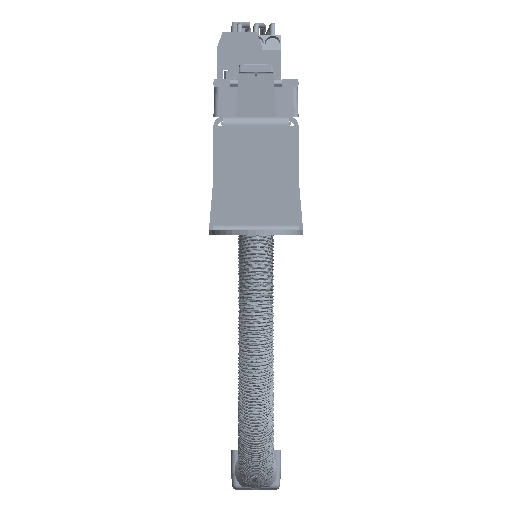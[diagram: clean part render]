
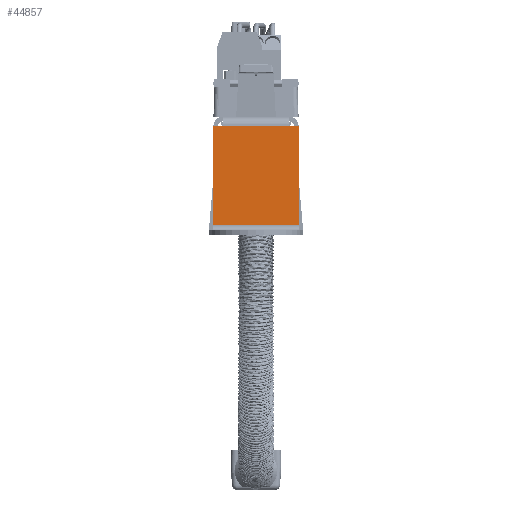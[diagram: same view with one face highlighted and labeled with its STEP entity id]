
A CAD part, left-side view. The second image highlights one B-rep face of the part: STEP entity #44857.
In plain terms, the highlighted planar face has unit normal (-1, 0, 0).
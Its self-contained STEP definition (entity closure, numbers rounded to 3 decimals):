
#2948=PLANE($,#47953);
#4796=FACE_OUTER_BOUND($,#7334,.T.);
#7334=EDGE_LOOP($,(#32782,#32783,#32784,#32785,#32786,#32787));
#11447=LINE($,#106995,#15543);
#11502=LINE($,#107128,#15598);
#11516=LINE($,#107166,#15612);
#11520=LINE($,#107179,#15616);
#11521=LINE($,#107183,#15617);
#11525=LINE($,#107192,#15621);
#15543=VECTOR($,#53546,21.);
#15598=VECTOR($,#53681,2.);
#15612=VECTOR($,#53725,2.);
#15616=VECTOR($,#53743,14.);
#15617=VECTOR($,#53748,21.);
#15621=VECTOR($,#53760,18.);
#19960=VERTEX_POINT($,#106992);
#19961=VERTEX_POINT($,#106994);
#19997=VERTEX_POINT($,#107124);
#19999=VERTEX_POINT($,#107127);
#20008=VERTEX_POINT($,#107164);
#20011=VERTEX_POINT($,#107181);
#24696=EDGE_CURVE($,#19960,#19961,#11447,.T.);
#24766=EDGE_CURVE($,#19999,#19997,#11502,.T.);
#24787=EDGE_CURVE($,#19960,#20008,#11516,.T.);
#24794=EDGE_CURVE($,#20008,#19999,#11520,.T.);
#24796=EDGE_CURVE($,#20011,#19997,#11521,.T.);
#24801=EDGE_CURVE($,#20011,#19961,#11525,.T.);
#32782=ORIENTED_EDGE($,*,*,#24801,.T.);
#32783=ORIENTED_EDGE($,*,*,#24696,.F.);
#32784=ORIENTED_EDGE($,*,*,#24787,.T.);
#32785=ORIENTED_EDGE($,*,*,#24794,.T.);
#32786=ORIENTED_EDGE($,*,*,#24766,.T.);
#32787=ORIENTED_EDGE($,*,*,#24796,.F.);
#44857=ADVANCED_FACE($,(#4796),#2948,.F.);
#47953=AXIS2_PLACEMENT_3D($,#107201,#53774,#53775);
#53546=DIRECTION($,(0.,0.,-1.));
#53681=DIRECTION($,(0.,1.,0.));
#53725=DIRECTION($,(0.,1.,0.));
#53743=DIRECTION($,(0.,1.,0.));
#53748=DIRECTION($,(0.,0.,1.));
#53760=DIRECTION($,(0.,-1.,0.));
#53774=DIRECTION('center_axis',(1.,0.,0.));
#53775=DIRECTION('ref_axis',(0.,1.,0.));
#106992=CARTESIAN_POINT('',(-60.,-9.,-2.));
#106994=CARTESIAN_POINT('',(-60.,-9.,-23.));
#106995=CARTESIAN_POINT($,(-60.,-9.,-2.));
#107124=CARTESIAN_POINT('',(-60.,9.,-2.));
#107127=CARTESIAN_POINT('',(-60.,7.,-2.));
#107128=CARTESIAN_POINT($,(-60.,0.,-2.));
#107164=CARTESIAN_POINT('',(-60.,-7.,-2.));
#107166=CARTESIAN_POINT($,(-60.,0.,-2.));
#107179=CARTESIAN_POINT($,(-60.,0.,-2.));
#107181=CARTESIAN_POINT('',(-60.,9.,-23.));
#107183=CARTESIAN_POINT($,(-60.,9.,2.524));
#107192=CARTESIAN_POINT($,(-60.,-4.5,-23.));
#107201=CARTESIAN_POINT('Origin',(-60.,0.,-12.369));
